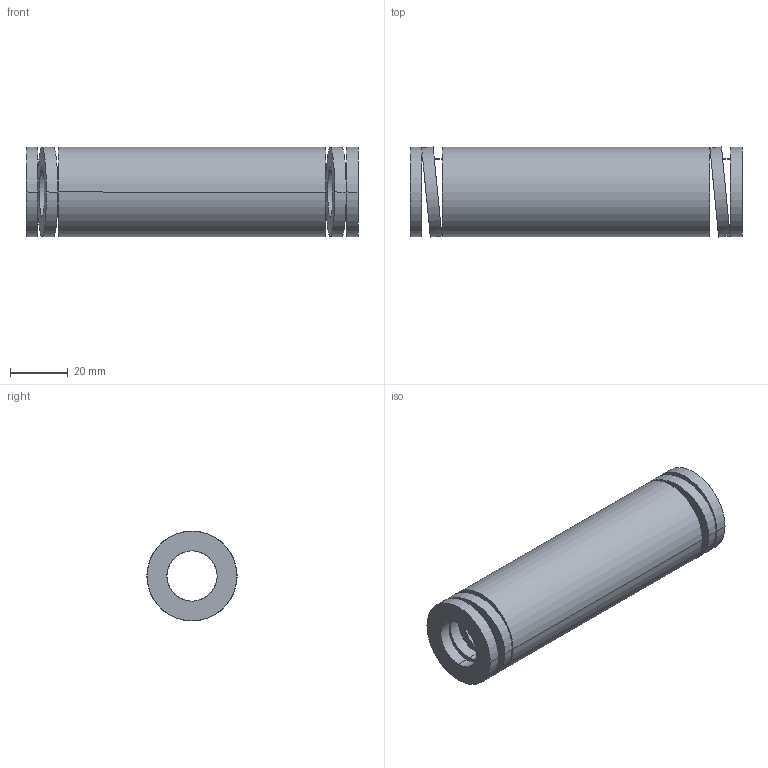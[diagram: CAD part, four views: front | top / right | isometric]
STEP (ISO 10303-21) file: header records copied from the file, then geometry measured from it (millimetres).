
FILE_DESCRIPTION(('CATIA V5 STEP Exchange'),'2;1');
FILE_NAME('C:\Users\Utente\Desktop\IO LAVORO\3D X SITO CF\X SITO\3D files 392B\392-B32-115.stp','2021-08-13T08:55:41+00:00',('none'),('none'),'CATIA Version 5 Release 20 GA (IN-10)','CATIA V5 STEP AP203','none');
FILE_SCHEMA(('CONFIG_CONTROL_DESIGN'));
Length unit declared in the file: millimetre
Products named in the file (1): 392-B32-115
Bounding box: 115 x 31.24 x 31 mm (x, y, z)
Volume: 56204.1 mm3; surface area: 21704.2 mm2
Topology: 1 solids, 1 shells, 38 faces, 92 edges, 64 vertices
Faces by surface type: cylinder 28, plane 10
Entity records: 1560 total; most frequent: CARTESIAN_POINT 667, ORIENTED_EDGE 184, DIRECTION 131, EDGE_CURVE 92, AXIS2_PLACEMENT_3D 66, VERTEX_POINT 64, EDGE_LOOP 56, ADVANCED_FACE 38
